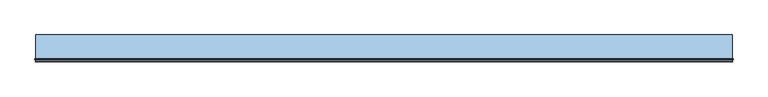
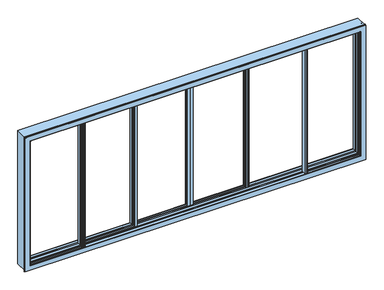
"""IFC4 building model written with IfcOpenShell, lengths in millimetres: window geometry, XL_XHS-9-3E_Metaglas : XL_XHS-9-3E_Metaglas."""

from ifc_helpers import new_model, si_unit, frame, origin, place, context, project, spatial, polyline, outline, extrude, faceted_brep, source, transform, mapped, element, save


def window_bf3bb52b(model_context):
    return source(origin(), model_context, "Body", "SolidModel", [
        faceted_brep([(2970.6999683, 118.3017351, 2470.6999683), (2970.6999683, 180.5026124, 2470.6999683), (2970.6999683, 180.5026124, 29.3000317), (2970.6999683, 118.3017351, 29.3000317), (-2970.6999683, 180.5026124, 2470.6999683), (-2970.6999683, 180.5026124, 29.3000317), (2937.7502981, 180.5026124, 62.2497019), (-2937.7502981, 180.5026124, 62.2497019), (-2937.7502981, 180.5026124, 2437.7502981), (2937.7502981, 180.5026124, 2437.7502981), (-2970.6999683, 118.3017351, 29.3000317), (-2970.6999683, 118.3017351, 2470.6999683), (2949.0575192, 118.3017351, 2449.0575192), (-2949.0575192, 118.3017351, 2449.0575192), (-2949.0575192, 118.3017351, 50.9424808), (2949.0575192, 118.3017351, 50.9424808), (2937.7502981, 176.7025775, 2437.7502981), (2937.7502981, 176.7025775, 62.2497019), (-2937.7502981, 176.7025775, 2437.7502981), (-2937.7502981, 176.7025775, 62.2497019), (2907.2503113, 176.7025775, 92.7496887), (-2907.2503113, 176.7025775, 92.7496887), (-2907.2503113, 176.7025775, 2407.2503113), (2907.2503113, 176.7025775, 2407.2503113), (2909.7253015, 183.5025573, 2409.7253015), (2909.7253015, 183.5025573, 90.2746985), (2981.6999683, 183.5025573, 18.3000317), (-2981.6999683, 183.5025573, 18.3000317), (-2981.6999683, 183.5025573, 2481.6999683), (2981.6999683, 183.5025573, 2481.6999683), (-2909.7253015, 183.5025573, 2409.7253015), (-2909.7253015, 183.5025573, 90.2746985), (2981.6999683, 125.8518398, 2481.6999683), (2981.6999683, 125.8518398, 18.3000317), (2984.99997, 125.8518398, 15.00003), (-2984.99997, 125.8518398, 15.00003), (-2984.99997, 125.8518398, 2484.99997), (2984.99997, 125.8518398, 2484.99997), (-2981.6999683, 125.8518398, 2481.6999683), (-2981.6999683, 125.8518398, 18.3000317), (2984.99997, 118.9947947, 2484.99997), (2984.99997, 118.9947947, 15.00003), (2981.6999683, 120.3017352, 2481.6999683), (2981.6999683, 120.3017352, 18.3000317), (-2984.99997, 118.9947947, 15.00003), (2981.6999683, 97.1025583, 2481.6999683), (2981.6999683, 97.1025583, 18.3000317), (-2981.6999683, 120.3017352, 18.3000317), (2984.99997, 98.3676373, 2484.99997), (2984.99997, 98.3676373, 15.00003), (-2981.6999683, 97.1025583, 18.3000317), (2984.99997, 91.3025583, 2484.99997), (2984.99997, 91.3025583, 15.00003), (-2984.99997, 98.3676373, 15.00003), (-2984.99997, 91.3025583, 2484.99997), (-2984.99997, 91.3025583, 15.00003), (2981.6999683, 91.3025583, 18.3000317), (-2981.6999683, 91.3025583, 18.3000317), (-2981.6999683, 91.3025583, 2481.6999683), (2981.6999683, 91.3025583, 2481.6999683), (2981.6999683, 45.9025583, 2481.6999683), (2981.6999683, 45.9025583, 18.3000317), (2984.99997, 45.9025583, 15.00003), (-2984.99997, 45.9025583, 15.00003), (-2984.99997, 45.9025583, 2484.99997), (2984.99997, 45.9025583, 2484.99997), (-2981.6999683, 45.9025583, 2481.6999683), (-2981.6999683, 45.9025583, 18.3000317), (2984.99997, 38.2525583, 2484.99997), (2984.99997, 38.2525583, 15.00003), (2981.6999683, 40.2025592, 2481.6999683), (2981.6999683, 40.2025592, 18.3000317), (-2984.99997, 38.2525583, 15.00003), (2981.6999683, 17.0041087, 2481.6999683), (2981.6999683, 17.0041087, 18.3000317), (-2981.6999683, 40.2025592, 18.3000317), (2984.99997, 18.2691877, 2484.99997), (2984.99997, 18.2691877, 15.00003), (-2981.6999683, 17.0041087, 18.3000317), (2984.99997, 11.35479, 2484.99997), (2984.99997, 11.35479, 15.00003), (-2984.99997, 18.2691877, 15.00003), (-2984.99997, 11.35479, 2484.99997), (-2984.99997, 11.35479, 15.00003), (2981.6999683, 11.35479, 18.3000317), (-2981.6999683, 11.35479, 18.3000317), (-2981.6999683, 11.35479, 2481.6999683), (2981.6999683, 11.35479, 2481.6999683), (2981.6999683, -15.2974407, 2481.6999683), (2981.6999683, -15.2974407, 18.3000317), (2984.99997, -15.2974407, 15.00003), (-2984.99997, -15.2974407, 15.00003), (-2984.99997, -15.2974407, 2484.99997), (2984.99997, -15.2974407, 2484.99997), (-2981.6999683, -15.2974407, 2481.6999683), (-2981.6999683, -15.2974407, 18.3000317), (2984.99997, -21.2974407, 2484.99997), (2984.99997, -21.2974407, 15.00003), (-2984.99997, -21.2974407, 2484.99997), (-2984.99997, -21.2974407, 15.00003), (2981.6999683, -21.2974407, 18.3000317), (-2981.6999683, -21.2974407, 18.3000317), (-2981.6999683, -21.2974407, 2481.6999683), (2981.6999683, -21.2974407, 2481.6999683), (2981.6999683, -26.9457537, 2481.6999683), (2981.6999683, -26.9457537, 18.3000317), (2991.6999768, -26.9457537, 8.3000232), (-2991.6999768, -26.9457537, 8.3000232), (-2991.6999768, -26.9457537, 2491.6999768), (2991.6999768, -26.9457537, 2491.6999768), (-2981.6999683, -26.9457537, 2481.6999683), (-2981.6999683, -26.9457537, 18.3000317), (2991.6999768, -23.8957567, 2491.6999768), (2991.6999768, -23.8957567, 8.3000232), (3000.1999683, -23.8957567, -0.1999683), (-3000.1999683, -23.8957567, -0.1999683), (-3000.1999683, -23.8957567, 2500.1999683), (3000.1999683, -23.8957567, 2500.1999683), (-2991.6999768, -23.8957567, 2491.6999768), (-2991.6999768, -23.8957567, 8.3000232), (3000.1999683, -28.6974407, 2500.1999683), (3000.1999683, -28.6974407, -0.1999683), (-3000.1999683, -28.6974407, 2500.1999683), (-3000.1999683, -28.6974407, -0.1999683), (2994.7003126, -28.6974407, 5.2996874), (-2994.7003126, -28.6974407, 5.2996874), (-2994.7003126, -28.6974407, 2494.7003126), (2994.7003126, -28.6974407, 2494.7003126), (2949.0575192, 98.9525583, 2449.0575192), (2949.0575192, 97.1025583, 2449.0575192), (2949.0575192, 97.1025583, 50.9424808), (2949.0575192, 98.9525583, 50.9424808), (-2949.0575192, 97.1025583, 2449.0575192), (-2949.0575192, 97.1025583, 50.9424808), (2941.1999683, 97.1025583, 58.8000317), (-2941.1999683, 97.1025583, 58.8000317), (-2941.1999683, 97.1025583, 2441.1999683), (2941.1999683, 97.1025583, 2441.1999683), (-2949.0575192, 98.9525583, 50.9424808), (2970.6999683, 98.9525583, 2470.6999683), (-2970.6999683, 98.9525583, 2470.6999683), (-2970.6999683, 98.9525583, 29.3000317), (2970.6999683, 98.9525583, 29.3000317), (-2949.0575192, 98.9525583, 2449.0575192), (-2984.99997, 118.9947947, 2484.99997), (-2981.6999683, 120.3017352, 2481.6999683), (-2981.6999683, 97.1025583, 2481.6999683), (-2984.99997, 98.3676373, 2484.99997), (-2984.99997, 38.2525583, 2484.99997), (-2981.6999683, 40.2025592, 2481.6999683), (-2981.6999683, 17.0041087, 2481.6999683), (-2984.99997, 18.2691877, 2484.99997), (-2949.0575192, 120.3017352, 50.9424808), (-2949.0575192, 120.3017352, 2449.0575192), (2949.0575192, 120.3017352, 50.9424808), (2949.0575192, 120.3017352, 2449.0575192), (2996.7003126, -46.2957343, 3.2996874), (-2996.7003126, -46.2957343, 3.2996874), (-2996.7003126, -46.2957343, 2496.7003126), (2996.7003126, -46.2957343, 2496.7003126), (2994.7003126, -46.2957343, 2494.7003126), (-2994.7003126, -46.2957343, 2494.7003126), (-2994.7003126, -46.2957343, 5.2996874), (2994.7003126, -46.2957343, 5.2996874), (2996.7003126, -48.7974407, 3.2996874), (-2996.7003126, -48.7974407, 3.2996874), (-2996.7003126, -48.7974407, 2496.7003126), (2996.7003126, -48.7974407, 2496.7003126), (2941.1999683, 120.3017352, 2441.1999683), (-2941.1999683, 120.3017352, 2441.1999683), (-2941.1999683, 120.3017352, 58.8000317), (2941.1999683, 120.3017352, 58.8000317), (2941.1999683, 118.3017351, 2441.1999683), (2941.1999683, 118.3017351, 58.8000317), (-2941.1999683, 118.3017351, 58.8000317), (-2941.1999683, 118.3017351, 2441.1999683), (2928.7503113, 118.3017351, 2428.7503113), (-2928.7503113, 118.3017351, 2428.7503113), (-2928.7503113, 118.3017351, 71.2496887), (2928.7503113, 118.3017351, 71.2496887), (2928.7503113, 120.3017352, 2428.7503113), (2928.7503113, 120.3017352, 71.2496887), (-2928.7503113, 120.3017352, 71.2496887), (-2928.7503113, 120.3017352, 2428.7503113), (2907.2503113, 120.3017352, 2407.2503113), (-2907.2503113, 120.3017352, 2407.2503113), (-2907.2503113, 120.3017352, 92.7496887), (2907.2503113, 120.3017352, 92.7496887), (2907.2503113, 97.1025583, 2407.2503113), (2907.2503113, 97.1025583, 92.7496887), (-2907.2503113, 97.1025583, 92.7496887), (2928.7503113, 97.1025583, 2428.7503113), (-2928.7503113, 97.1025583, 2428.7503113), (-2928.7503113, 97.1025583, 71.2496887), (2928.7503113, 97.1025583, 71.2496887), (-2907.2503113, 97.1025583, 2407.2503113), (2928.7503113, 98.9525583, 2428.7503113), (2928.7503113, 98.9525583, 71.2496887), (-2928.7503113, 98.9525583, 71.2496887), (2941.1999683, 98.9525583, 2441.1999683), (-2941.1999683, 98.9525583, 2441.1999683), (-2941.1999683, 98.9525583, 58.8000317), (2941.1999683, 98.9525583, 58.8000317), (-2928.7503113, 98.9525583, 2428.7503113), (2970.6999683, 81.6025583, 2470.6999683), (2970.6999683, 81.6025583, 29.3000317), (-2970.6999683, 81.6025583, 29.3000317), (-2970.6999683, 81.6025583, 2470.6999683), (2969.1499683, 81.6025583, 2469.1499683), (-2969.1499683, 81.6025583, 2469.1499683), (-2969.1499683, 81.6025583, 30.8500317), (2969.1499683, 81.6025583, 30.8500317), (2969.1499683, 75.1025583, 2469.1499683), (2969.1499683, 75.1025583, 30.8500317), (-2969.1499683, 75.1025583, 30.8500317), (2970.6999683, 75.1025583, 2470.6999683), (-2970.6999683, 75.1025583, 2470.6999683), (-2970.6999683, 75.1025583, 29.3000317), (2970.6999683, 75.1025583, 29.3000317), (-2969.1499683, 75.1025583, 2469.1499683), (2970.6999683, 62.1025583, 2470.6999683), (2970.6999683, 62.1025583, 29.3000317), (-2970.6999683, 62.1025583, 29.3000317), (-2970.6999683, 62.1025583, 2470.6999683), (2969.1499683, 62.1025583, 2469.1499683), (-2969.1499683, 62.1025583, 2469.1499683), (-2969.1499683, 62.1025583, 30.8500317), (2969.1499683, 62.1025583, 30.8500317), (2969.1499683, 55.6025583, 2469.1499683), (2969.1499683, 55.6025583, 30.8500317), (-2969.1499683, 55.6025583, 30.8500317), (2970.6999683, 55.6025583, 2470.6999683), (-2970.6999683, 55.6025583, 2470.6999683), (-2970.6999683, 55.6025583, 29.3000317), (2970.6999683, 55.6025583, 29.3000317), (-2969.1499683, 55.6025583, 2469.1499683), (2970.6999683, 38.2525583, 2470.6999683), (2970.6999683, 38.2525583, 29.3000317), (-2970.6999683, 38.2525583, 29.3000317), (-2970.6999683, 38.2525583, 2470.6999683), (2949.0575192, 38.2525583, 2449.0575192), (-2949.0575192, 38.2525583, 2449.0575192), (-2949.0575192, 38.2525583, 50.9424808), (2949.0575192, 38.2525583, 50.9424808), (2949.0575192, 40.2025592, 2449.0575192), (2949.0575192, 40.2025592, 50.9424808), (-2949.0575192, 40.2025592, 50.9424808), (-2949.0575192, 40.2025592, 2449.0575192), (2941.1999683, 40.2025592, 2441.1999683), (-2941.1999683, 40.2025592, 2441.1999683), (-2941.1999683, 40.2025592, 58.8000317), (2941.1999683, 40.2025592, 58.8000317), (2941.1999683, 38.2025592, 2441.1999683), (2941.1999683, 38.2025592, 58.8000317), (-2941.1999683, 38.2025592, 58.8000317), (-2941.1999683, 38.2025592, 2441.1999683), (2928.7503113, 38.2025592, 2428.7503113), (-2928.7503113, 38.2025592, 2428.7503113), (-2928.7503113, 38.2025592, 71.2496887), (2928.7503113, 38.2025592, 71.2496887), (2928.7503113, 40.2025592, 2428.7503113), (2928.7503113, 40.2025592, 71.2496887), (-2928.7503113, 40.2025592, 71.2496887), (-2928.7503113, 40.2025592, 2428.7503113), (2907.2503113, 40.2025592, 2407.2503113), (-2907.2503113, 40.2025592, 2407.2503113), (-2907.2503113, 40.2025592, 92.7496887), (2907.2503113, 40.2025592, 92.7496887), (2907.2503113, 17.0041087, 2407.2503113), (2907.2503113, 17.0041087, 92.7496887), (-2907.2503113, 17.0041087, 92.7496887), (2928.7503113, 17.0041087, 2428.7503113), (-2928.7503113, 17.0041087, 2428.7503113), (-2928.7503113, 17.0041087, 71.2496887), (2928.7503113, 17.0041087, 71.2496887), (-2907.2503113, 17.0041087, 2407.2503113), (2928.7503113, 18.8542105, 2428.7503113), (2928.7503113, 18.8542105, 71.2496887), (-2928.7503113, 18.8542105, 71.2496887), (2941.1999683, 18.8542105, 2441.1999683), (-2941.1999683, 18.8542105, 2441.1999683), (-2941.1999683, 18.8542105, 58.8000317), (2941.1999683, 18.8542105, 58.8000317), (-2928.7503113, 18.8542105, 2428.7503113), (2941.1999683, 17.0041087, 2441.1999683), (2941.1999683, 17.0041087, 58.8000317), (-2941.1999683, 17.0041087, 58.8000317), (2949.0999628, 17.0041087, 2449.0999628), (-2949.0999628, 17.0041087, 2449.0999628), (-2949.0999628, 17.0041087, 50.9000372), (2949.0999628, 17.0041087, 50.9000372), (-2941.1999683, 17.0041087, 2441.1999683), (2949.0999628, 18.8542105, 2449.0999628), (2949.0999628, 18.8542105, 50.9000372), (-2949.0999628, 18.8542105, 50.9000372), (2970.6999683, 18.8542105, 2470.6999683), (-2970.6999683, 18.8542105, 2470.6999683), (-2970.6999683, 18.8542105, 29.3000317), (2970.6999683, 18.8542105, 29.3000317), (-2949.0999628, 18.8542105, 2449.0999628), (2970.6999683, -39.4974407, 2470.6999683), (2970.6999683, -39.4974407, 29.3000317), (-2970.6999683, -39.4974407, 29.3000317), (-2970.6999683, -39.4974407, 2470.6999683), (2907.2003126, -39.4974407, 2407.2003126), (-2907.2003126, -39.4974407, 2407.2003126), (-2907.2003126, -39.4974407, 92.7996874), (2907.2003126, -39.4974407, 92.7996874), (2907.2003126, -45.7974407, 2407.2003126), (2907.2003126, -45.7974407, 92.7996874), (-2907.2003126, -45.7974407, 92.7996874), (2910.2003126, -48.7974407, 2410.2003126), (2910.2003126, -48.7974407, 89.7996874), (-2910.2003126, -48.7974407, 89.7996874), (-2910.2003126, -48.7974407, 2410.2003126), (-2907.2003126, -45.7974407, 2407.2003126)], [[[0, 1, 2, 3]], [[1, 4, 5, 2], [6, 7, 8, 9]], [[3, 2, 5, 10]], [[3, 10, 11, 0], [12, 13, 14, 15]], [[9, 16, 17, 6]], [[16, 18, 19, 17], [20, 21, 22, 23]], [[6, 17, 19, 7]], [[23, 24, 25, 20]], [[26, 27, 28, 29], [24, 30, 31, 25]], [[20, 25, 31, 21]], [[29, 32, 33, 26]], [[34, 35, 36, 37], [32, 38, 39, 33]], [[26, 33, 39, 27]], [[37, 40, 41, 34]], [[40, 42, 43, 41]], [[34, 41, 44, 35]], [[42, 45, 46, 43]], [[41, 43, 47, 44]], [[45, 48, 49, 46]], [[43, 46, 50, 47]], [[48, 51, 52, 49]], [[46, 49, 53, 50]], [[51, 54, 55, 52], [56, 57, 58, 59]], [[49, 52, 55, 53]], [[59, 60, 61, 56]], [[62, 63, 64, 65], [60, 66, 67, 61]], [[56, 61, 67, 57]], [[65, 68, 69, 62]], [[68, 70, 71, 69]], [[62, 69, 72, 63]], [[70, 73, 74, 71]], [[69, 71, 75, 72]], [[73, 76, 77, 74]], [[71, 74, 78, 75]], [[76, 79, 80, 77]], [[74, 77, 81, 78]], [[79, 82, 83, 80], [84, 85, 86, 87]], [[77, 80, 83, 81]], [[87, 88, 89, 84]], [[90, 91, 92, 93], [88, 94, 95, 89]], [[84, 89, 95, 85]], [[93, 96, 97, 90]], [[96, 98, 99, 97], [100, 101, 102, 103]], [[90, 97, 99, 91]], [[103, 104, 105, 100]], [[106, 107, 108, 109], [104, 110, 111, 105]], [[100, 105, 111, 101]], [[109, 112, 113, 106]], [[114, 115, 116, 117], [112, 118, 119, 113]], [[106, 113, 119, 107]], [[117, 120, 121, 114]], [[120, 122, 123, 121], [124, 125, 126, 127]], [[114, 121, 123, 115]], [[128, 129, 130, 131]], [[129, 132, 133, 130], [134, 135, 136, 137]], [[131, 130, 133, 138]], [[139, 140, 141, 142], [131, 138, 143, 128]], [[10, 5, 4, 11]], [[7, 19, 18, 8]], [[21, 31, 30, 22]], [[27, 39, 38, 28]], [[35, 44, 144, 36]], [[44, 47, 145, 144]], [[47, 50, 146, 145]], [[50, 53, 147, 146]], [[53, 55, 54, 147]], [[57, 67, 66, 58]], [[63, 72, 148, 64]], [[72, 75, 149, 148]], [[75, 78, 150, 149]], [[78, 81, 151, 150]], [[81, 83, 82, 151]], [[85, 95, 94, 86]], [[91, 99, 98, 92]], [[101, 111, 110, 102]], [[107, 119, 118, 108]], [[115, 123, 122, 116]], [[138, 133, 132, 143]], [[152, 14, 13, 153]], [[154, 15, 14, 152]], [[155, 12, 15, 154]], [[156, 157, 158, 159], [160, 161, 162, 163]], [[156, 164, 165, 157]], [[157, 165, 166, 158]], [[159, 167, 164, 156]], [[125, 162, 161, 126]], [[124, 163, 162, 125]], [[127, 160, 163, 124]], [[154, 152, 153, 155], [168, 169, 170, 171]], [[172, 168, 171, 173]], [[173, 171, 170, 174]], [[173, 174, 175, 172], [176, 177, 178, 179]], [[180, 176, 179, 181]], [[181, 179, 178, 182]], [[181, 182, 183, 180], [184, 185, 186, 187]], [[188, 184, 187, 189]], [[189, 187, 186, 190]], [[191, 192, 193, 194], [189, 190, 195, 188]], [[196, 191, 194, 197]], [[197, 194, 193, 198]], [[199, 200, 201, 202], [197, 198, 203, 196]], [[137, 199, 202, 134]], [[134, 202, 201, 135]], [[204, 139, 142, 205]], [[205, 142, 141, 206]], [[205, 206, 207, 204], [208, 209, 210, 211]], [[212, 208, 211, 213]], [[213, 211, 210, 214]], [[215, 216, 217, 218], [213, 214, 219, 212]], [[220, 215, 218, 221]], [[221, 218, 217, 222]], [[221, 222, 223, 220], [224, 225, 226, 227]], [[228, 224, 227, 229]], [[229, 227, 226, 230]], [[231, 232, 233, 234], [229, 230, 235, 228]], [[236, 231, 234, 237]], [[237, 234, 233, 238]], [[237, 238, 239, 236], [240, 241, 242, 243]], [[244, 240, 243, 245]], [[245, 243, 242, 246]], [[245, 246, 247, 244], [248, 249, 250, 251]], [[252, 248, 251, 253]], [[253, 251, 250, 254]], [[253, 254, 255, 252], [256, 257, 258, 259]], [[260, 256, 259, 261]], [[261, 259, 258, 262]], [[261, 262, 263, 260], [264, 265, 266, 267]], [[268, 264, 267, 269]], [[269, 267, 266, 270]], [[271, 272, 273, 274], [269, 270, 275, 268]], [[276, 271, 274, 277]], [[277, 274, 273, 278]], [[279, 280, 281, 282], [277, 278, 283, 276]], [[284, 279, 282, 285]], [[285, 282, 281, 286]], [[287, 288, 289, 290], [285, 286, 291, 284]], [[292, 287, 290, 293]], [[293, 290, 289, 294]], [[295, 296, 297, 298], [293, 294, 299, 292]], [[300, 295, 298, 301]], [[301, 298, 297, 302]], [[301, 302, 303, 300], [304, 305, 306, 307]], [[308, 304, 307, 309]], [[309, 307, 306, 310]], [[311, 308, 309, 312]], [[312, 309, 310, 313]], [[167, 166, 165, 164], [312, 313, 314, 311]], [[174, 170, 169, 175]], [[182, 178, 177, 183]], [[190, 186, 185, 195]], [[198, 193, 192, 203]], [[135, 201, 200, 136]], [[206, 141, 140, 207]], [[214, 210, 209, 219]], [[222, 217, 216, 223]], [[230, 226, 225, 235]], [[238, 233, 232, 239]], [[246, 242, 241, 247]], [[254, 250, 249, 255]], [[262, 258, 257, 263]], [[270, 266, 265, 275]], [[278, 273, 272, 283]], [[286, 281, 280, 291]], [[294, 289, 288, 299]], [[302, 297, 296, 303]], [[310, 306, 305, 315]], [[313, 310, 315, 314]], [[11, 4, 1, 0]], [[8, 18, 16, 9]], [[22, 30, 24, 23]], [[28, 38, 32, 29]], [[36, 144, 40, 37]], [[144, 145, 42, 40]], [[145, 146, 45, 42]], [[146, 147, 48, 45]], [[147, 54, 51, 48]], [[58, 66, 60, 59]], [[64, 148, 68, 65]], [[148, 149, 70, 68]], [[149, 150, 73, 70]], [[150, 151, 76, 73]], [[151, 82, 79, 76]], [[86, 94, 88, 87]], [[92, 98, 96, 93]], [[102, 110, 104, 103]], [[108, 118, 112, 109]], [[116, 122, 120, 117]], [[143, 132, 129, 128]], [[126, 161, 160, 127]], [[153, 13, 12, 155]], [[175, 169, 168, 172]], [[183, 177, 176, 180]], [[195, 185, 184, 188]], [[203, 192, 191, 196]], [[136, 200, 199, 137]], [[207, 140, 139, 204]], [[219, 209, 208, 212]], [[223, 216, 215, 220]], [[235, 225, 224, 228]], [[239, 232, 231, 236]], [[247, 241, 240, 244]], [[255, 249, 248, 252]], [[263, 257, 256, 260]], [[275, 265, 264, 268]], [[283, 272, 271, 276]], [[291, 280, 279, 284]], [[299, 288, 287, 292]], [[303, 296, 295, 300]], [[315, 305, 304, 308]], [[314, 315, 308, 311]], [[158, 166, 167, 159]]]),
        faceted_brep([(-1941.05, 14.7013279, 2449.0), (-1941.05, -37.2986721, 2449.0), (-1941.05, -37.2986721, 52.6), (-1941.05, 14.7013279, 52.6), (-2949.0, -37.2986721, 2449.0), (-2949.0, -37.2986721, 52.6), (-1983.05, -37.2986721, 94.6), (-2907.0, -37.2986721, 94.6), (-2907.0, -37.2986721, 2407.0), (-1983.05, -37.2986721, 2407.0), (-2949.0, 14.7013279, 52.6), (-2949.0, 14.7013279, 2449.0), (-1983.05, 14.7013279, 2407.0), (-2907.0, 14.7013279, 2407.0), (-2907.0, 14.7013279, 94.6), (-1983.05, 14.7013279, 94.6), (-1983.05, 4.2013279, 2407.0), (-1983.05, 4.2013279, 94.6), (-2907.0, 4.2013279, 94.6), (-1969.35, 4.2013279, 2420.7), (-2920.7, 4.2013279, 2420.7), (-2920.7, 4.2013279, 80.9), (-1969.35, 4.2013279, 80.9), (-2907.0, 4.2013279, 2407.0), (-1969.35, -31.2986721, 2420.7), (-1969.35, -31.2986721, 80.9), (-2920.7, -31.2986721, 80.9), (-2920.7, -31.2986721, 2420.7), (-1983.05, -31.2986721, 2407.0), (-2907.0, -31.2986721, 2407.0), (-2907.0, -31.2986721, 94.6), (-1983.05, -31.2986721, 94.6)], [[[0, 1, 2, 3]], [[1, 4, 5, 2], [6, 7, 8, 9]], [[3, 2, 5, 10]], [[3, 10, 11, 0], [12, 13, 14, 15]], [[16, 12, 15, 17]], [[17, 15, 14, 18]], [[19, 20, 21, 22], [17, 18, 23, 16]], [[24, 19, 22, 25]], [[25, 22, 21, 26]], [[25, 26, 27, 24], [28, 29, 30, 31]], [[9, 28, 31, 6]], [[6, 31, 30, 7]], [[10, 5, 4, 11]], [[18, 14, 13, 23]], [[26, 21, 20, 27]], [[7, 30, 29, 8]], [[11, 4, 1, 0]], [[23, 13, 12, 16]], [[27, 20, 19, 24]], [[8, 29, 28, 9]]]),
        faceted_brep([(-38.85, 167.9013279, 2406.3), (-38.85, 173.9013279, 2406.3), (-38.85, 173.9013279, 95.3), (-38.85, 167.9013279, 95.3), (3.15, 173.9013279, 53.3), (-1014.15, 173.9013279, 53.3), (-1014.15, 173.9013279, 2448.3), (3.15, 173.9013279, 2448.3), (-972.15, 173.9013279, 2406.3), (-972.15, 173.9013279, 95.3), (-972.15, 167.9013279, 95.3), (-25.15, 167.9013279, 2420.0), (-985.85, 167.9013279, 2420.0), (-985.85, 167.9013279, 81.6), (-25.15, 167.9013279, 81.6), (-972.15, 167.9013279, 2406.3), (-25.15, 132.4013279, 2420.0), (-25.15, 132.4013279, 81.6), (-985.85, 132.4013279, 81.6), (-985.85, 132.4013279, 2420.0), (-38.85, 132.4013279, 2406.3), (-972.15, 132.4013279, 2406.3), (-972.15, 132.4013279, 95.3), (-38.85, 132.4013279, 95.3), (-38.85, 121.9013279, 2406.3), (-38.85, 121.9013279, 95.3), (-972.15, 121.9013279, 95.3), (3.15, 121.9013279, 2448.3), (-1014.15, 121.9013279, 2448.3), (-1014.15, 121.9013279, 53.3), (3.15, 121.9013279, 53.3), (-972.15, 121.9013279, 2406.3)], [[[0, 1, 2, 3]], [[4, 5, 6, 7], [1, 8, 9, 2]], [[3, 2, 9, 10]], [[11, 12, 13, 14], [3, 10, 15, 0]], [[16, 11, 14, 17]], [[17, 14, 13, 18]], [[17, 18, 19, 16], [20, 21, 22, 23]], [[24, 20, 23, 25]], [[25, 23, 22, 26]], [[27, 28, 29, 30], [25, 26, 31, 24]], [[7, 27, 30, 4]], [[4, 30, 29, 5]], [[10, 9, 8, 15]], [[18, 13, 12, 19]], [[26, 22, 21, 31]], [[5, 29, 28, 6]], [[15, 8, 1, 0]], [[19, 12, 11, 16]], [[31, 21, 20, 24]], [[6, 28, 27, 7]]]),
        extrude(outline(polyline([(-1937.3, -40.3986832), (-1957.8, -40.3986832), (-1957.8, -38.0986832), (-1939.8, -38.0986832), (-1939.8, 9.4006738), (-1950.7999933, 9.4006738), (-1950.7999933, 21.4013279), (-1955.5994287, 21.4013279), (-1959.1501259, 23.4513239), (-1957.1001331, 25.5013168), (-1939.8, 25.5013168), (-1939.8, 30.8013168), (-1957.100133, 30.8013168), (-1959.1, 32.803071), (-1969.6, 36.9013168), (-1977.7955136, 36.9013168), (-1982.1256406, 39.4013168), (-1965.100133, 39.4013168), (-1957.100133, 35.9013168), (-1950.05, 35.9013168), (-1950.05, 39.4013168), (-1939.8, 39.4013168), (-1939.8, 44.6013279), (-1937.3, 44.6013279), (-1937.3, -40.3986832)])), frame((0.0, 0.0, 66.6), z_axis=(0.0, 0.0, 1.0), x_axis=(1.0, 0.0, 0.0)), (0.0, 0.0, 1.0), 2368.4),
        extrude(outline(polyline([(-1018.6, 177.0013391), (-998.1, 177.0013391), (-998.1, 174.7013391), (-1016.1, 174.7013391), (-1016.1, 127.2019821), (-1005.1000067, 127.2019821), (-1005.1000067, 115.2013279), (-1000.3005713, 115.2013279), (-996.7498741, 113.1513319), (-998.7998669, 111.1013391), (-1016.1, 111.1013391), (-1016.1, 105.8013391), (-998.799867, 105.8013391), (-996.8, 103.7995849), (-986.3, 99.7013391), (-978.1044864, 99.7013391), (-973.7743594, 97.2013391), (-990.799867, 97.2013391), (-998.799867, 100.7013391), (-1005.85, 100.7013391), (-1005.85, 97.2013391), (-1016.1, 97.2013391), (-1016.1, 92.0013279), (-1018.6, 92.0013279), (-1018.6, 177.0013391)])), frame((0.0, 0.0, 66.6), z_axis=(0.0, 0.0, 1.0), x_axis=(1.0, 0.0, 0.0)), (0.0, 0.0, 1.0), 2368.4),
        faceted_brep([(-2907.5, 10.6505396, 29.4010051), (-2907.5, 10.6505396, 32.2551277), (-2907.5, 14.4013889, 40.065471), (-2907.5, 14.4013889, 91.0010712), (-2907.5, -36.9986354, 91.0010712), (-2907.5, -36.9986354, 40.1112132), (-2907.5, -33.2475124, 32.2551277), (-2907.5, -33.2475124, 29.4001027), (-2907.5, -35.0475124, 29.4001027), (-2907.5, -35.0475124, 31.8453147), (-2907.5, -41.2688581, 44.7999397), (-2907.5, -38.7976964, 44.7999397), (-2907.5, -38.7976964, 92.7999899), (-2907.5, 16.2013523, 92.7999899), (-2907.5, 16.2013523, 44.7999899), (-2907.5, 18.6718854, 44.7999899), (-2907.5, 12.4505396, 31.8453147), (-2907.5, 12.4505396, 29.4010051), (-2907.5, 10.6505396, 2470.5989949), (-2907.5, 10.6505396, 2467.7448723), (2967.7448723, 10.6505396, 2467.7448723), (2967.7448723, 10.6505396, 32.2551277), (2970.5989949, 10.6505396, 29.4010051), (2970.5989949, 10.6505396, 2470.5989949), (2959.934529, 14.4013889, 40.065471), (-2907.5, 14.4013889, 2459.934529), (-2907.5, 14.4013889, 2408.9989288), (2908.9989288, 14.4013889, 2408.9989288), (2908.9989288, 14.4013889, 91.0010712), (2959.934529, 14.4013889, 2459.934529), (2908.9989288, -36.9986354, 91.0010712), (-2907.5, -36.9986354, 2408.9989288), (-2907.5, -36.9986354, 2459.8887868), (2959.8887868, -36.9986354, 2459.8887868), (2959.8887868, -36.9986354, 40.1112132), (2908.9989288, -36.9986354, 2408.9989288), (2967.7448723, -33.2475124, 32.2551277), (-2907.5, -33.2475124, 2467.7448723), (-2907.5, -33.2475124, 2470.5998973), (2970.5998973, -33.2475124, 2470.5998973), (2970.5998973, -33.2475124, 29.4001027), (2967.7448723, -33.2475124, 2467.7448723), (2970.5998973, -35.0475124, 29.4001027), (-2907.5, -35.0475124, 2470.5998973), (-2907.5, -35.0475124, 2468.1546853), (2968.1546853, -35.0475124, 2468.1546853), (2968.1546853, -35.0475124, 31.8453147), (2970.5998973, -35.0475124, 2470.5998973), (2955.2000603, -41.2688581, 44.7999397), (2955.2000603, -38.7976964, 44.7999397), (-2907.5, -38.7976964, 2455.2000603), (-2907.5, -38.7976964, 2407.2000101), (2907.2000101, -38.7976964, 2407.2000101), (2907.2000101, -38.7976964, 92.7999899), (2955.2000603, -38.7976964, 2455.2000603), (2907.2000101, 16.2013523, 92.7999899), (-2907.5, 16.2013523, 2407.2000101), (-2907.5, 16.2013523, 2455.2000101), (2955.2000101, 16.2013523, 2455.2000101), (2955.2000101, 16.2013523, 44.7999899), (2907.2000101, 16.2013523, 2407.2000101), (2955.2000101, 18.6718854, 44.7999899), (2968.1546853, 12.4505396, 31.8453147), (-2907.5, 12.4505396, 2468.1546853), (-2907.5, 12.4505396, 2470.5989949), (2970.5989949, 12.4505396, 2470.5989949), (2970.5989949, 12.4505396, 29.4010051), (2968.1546853, 12.4505396, 2468.1546853), (2955.2000603, -41.2688581, 2455.2000603), (2955.2000101, 18.6718854, 2455.2000101), (-2907.5, 18.6718854, 2455.2000101), (-2907.5, -41.2688581, 2455.2000603)], [[[0, 1, 2, 3, 4, 5, 6, 7, 8, 9, 10, 11, 12, 13, 14, 15, 16, 17]], [[18, 19, 20, 21, 1, 0, 22, 23]], [[21, 24, 2, 1]], [[25, 26, 27, 28, 3, 2, 24, 29]], [[28, 30, 4, 3]], [[31, 32, 33, 34, 5, 4, 30, 35]], [[34, 36, 6, 5]], [[37, 38, 39, 40, 7, 6, 36, 41]], [[40, 42, 8, 7]], [[43, 44, 45, 46, 9, 8, 42, 47]], [[46, 48, 10, 9]], [[48, 49, 11, 10]], [[50, 51, 52, 53, 12, 11, 49, 54]], [[53, 55, 13, 12]], [[56, 57, 58, 59, 14, 13, 55, 60]], [[59, 61, 15, 14]], [[61, 62, 16, 15]], [[63, 64, 65, 66, 17, 16, 62, 67]], [[66, 22, 0, 17]], [[33, 41, 36, 34]], [[27, 35, 30, 28]], [[20, 29, 24, 21]], [[45, 68, 48, 46]], [[39, 47, 42, 40]], [[65, 23, 22, 66]], [[69, 67, 62, 61]], [[58, 69, 61, 59]], [[52, 60, 55, 53]], [[68, 54, 49, 48]], [[18, 64, 63, 70, 57, 56, 51, 50, 71, 44, 43, 38, 37, 32, 31, 26, 25, 19]], [[64, 18, 23, 65]], [[26, 31, 35, 27]], [[32, 37, 41, 33]], [[19, 25, 29, 20]], [[70, 63, 67, 69]], [[57, 70, 69, 58]], [[51, 56, 60, 52]], [[71, 50, 54, 68]], [[44, 71, 68, 45]], [[38, 43, 47, 39]]]),
        extrude(outline(polyline([(-2970.6213169, 169.8505396), (-2970.6213169, 171.6505396), (-2968.1770072, 171.6505396), (-2955.222332, 177.8718854), (-2955.222332, 175.4013523), (-2907.222332, 175.4013523), (-2907.222332, 120.4023036), (-2955.2223823, 120.4023036), (-2955.2223823, 117.9311419), (-2968.1770072, 124.1524876), (-2970.6222192, 124.1524876), (-2970.6222192, 125.9524876), (-2967.7671942, 125.9524876), (-2959.9111087, 122.2013646), (-2909.0212507, 122.2013646), (-2909.0212507, 173.6013889), (-2959.956851, 173.6013889), (-2967.7671942, 169.8505396), (-2970.6213169, 169.8505396)])), frame((0.0, 0.0, 92.5), z_axis=(0.0, 0.0, 1.0), x_axis=(1.0, 0.0, 0.0)), (0.0, 0.0, 1.0), 2315.0),
        faceted_brep([(2984.9999912, -23.8568327, 15.0), (2984.9999912, 183.5013279, 15.0), (2991.0, 183.5013279, 15.0), (2991.0, -21.6986721, 15.0), (3000.0, -21.6986721, 15.0), (3000.0, -23.8568327, 15.0), (2984.9999912, -23.8568327, 2484.9999912), (2984.9999912, 183.5013279, 2484.9999912), (-2984.9999912, 183.5013279, 2484.9999912), (-2984.9999912, 183.5013279, 15.0), (-2991.0, 183.5013279, 15.0), (-2991.0, 183.5013279, 2491.0), (2991.0, 183.5013279, 2491.0), (2991.0, -21.6986721, 2491.0), (-2991.0, -21.6986721, 2491.0), (-2991.0, -21.6986721, 15.0), (-3000.0, -21.6986721, 15.0), (-3000.0, -21.6986721, 2500.0), (3000.0, -21.6986721, 2500.0), (3000.0, -23.8568327, 2500.0), (-3000.0, -23.8568327, 2500.0), (-3000.0, -23.8568327, 15.0), (-2984.9999912, -23.8568327, 15.0), (-2984.9999912, -23.8568327, 2484.9999912)], [[[0, 1, 2, 3, 4, 5]], [[1, 0, 6, 7]], [[2, 1, 7, 8, 9, 10, 11, 12]], [[3, 2, 12, 13]], [[4, 3, 13, 14, 15, 16, 17, 18]], [[5, 4, 18, 19]], [[0, 5, 19, 20, 21, 22, 23, 6]], [[8, 23, 22, 9]], [[22, 21, 16, 15, 10, 9]], [[14, 11, 10, 15]], [[20, 17, 16, 21]], [[7, 6, 23, 8]], [[13, 12, 11, 14]], [[19, 18, 17, 20]]]),
        faceted_brep([(-0.95, 121.9013279, 53.3), (-0.95, 173.9013279, 53.3), (1016.35, 173.9013279, 53.3), (1016.35, 121.9013279, 53.3), (1016.35, 173.9013279, 2448.3), (1016.35, 121.9013279, 2448.3), (-0.95, 173.9013279, 2448.3), (974.35, 173.9013279, 2406.3), (41.05, 173.9013279, 2406.3), (41.05, 173.9013279, 95.3), (974.35, 173.9013279, 95.3), (-0.95, 121.9013279, 2448.3), (974.35, 121.9013279, 95.3), (41.05, 121.9013279, 95.3), (41.05, 121.9013279, 2406.3), (974.35, 121.9013279, 2406.3), (41.05, 132.4013279, 95.3), (974.35, 132.4013279, 95.3), (974.35, 132.4013279, 2406.3), (988.05, 132.4013279, 81.6), (27.35, 132.4013279, 81.6), (27.35, 132.4013279, 2420.0), (988.05, 132.4013279, 2420.0), (41.05, 132.4013279, 2406.3), (27.35, 167.9013279, 81.6), (988.05, 167.9013279, 81.6), (988.05, 167.9013279, 2420.0), (27.35, 167.9013279, 2420.0), (974.35, 167.9013279, 95.3), (41.05, 167.9013279, 95.3), (41.05, 167.9013279, 2406.3), (974.35, 167.9013279, 2406.3)], [[[0, 1, 2, 3]], [[3, 2, 4, 5]], [[2, 1, 6, 4], [7, 8, 9, 10]], [[5, 11, 0, 3], [12, 13, 14, 15]], [[16, 13, 12, 17]], [[17, 12, 15, 18]], [[19, 20, 21, 22], [18, 23, 16, 17]], [[24, 20, 19, 25]], [[25, 19, 22, 26]], [[26, 27, 24, 25], [28, 29, 30, 31]], [[9, 29, 28, 10]], [[10, 28, 31, 7]], [[11, 6, 1, 0]], [[23, 14, 13, 16]], [[27, 21, 20, 24]], [[8, 30, 29, 9]], [[5, 4, 6, 11]], [[18, 15, 14, 23]], [[26, 22, 21, 27]], [[7, 31, 30, 8]]]),
        extrude(outline(polyline([(-47.0, 121.802235), (-4.7, 121.802235), (-4.7, 136.802235), (-0.7, 136.802235), (-0.7, 119.802235), (49.0, 119.802235), (49.0, 114.802235), (6.0, 114.802235), (6.0, 116.802235), (-4.0, 116.802235), (-4.0, 114.802235), (-47.0, 114.802235), (-47.0, 121.802235)])), frame((0.0, 0.0, 66.6), z_axis=(0.0, 0.0, 1.0), x_axis=(1.0, 0.0, 0.0)), (0.0, 0.0, 1.0), 2368.4),
        extrude(outline(polyline([(-47.0, 173.8734048), (-47.0, 180.8734048), (-4.0, 180.8734048), (-4.0, 178.8734048), (6.0, 178.8734048), (6.0, 180.8734048), (49.0, 180.8734048), (49.0, 175.8734048), (-0.7, 175.8734048), (-0.7, 158.8734048), (-4.7, 158.8734048), (-4.7, 173.8734048), (-47.0, 173.8734048)])), frame((0.0, 0.0, 66.6), z_axis=(0.0, 0.0, 1.0), x_axis=(1.0, 0.0, 0.0)), (0.0, 0.0, 1.0), 2368.4),
        faceted_brep([(1983.05, -31.2986721, 94.6), (1983.05, -37.2986721, 94.6), (2907.0, -37.2986721, 94.6), (2907.0, -31.2986721, 94.6), (2907.0, -37.2986721, 2407.0), (2907.0, -31.2986721, 2407.0), (2949.0, -37.2986721, 2449.0), (1941.05, -37.2986721, 2449.0), (1941.05, -37.2986721, 52.6), (2949.0, -37.2986721, 52.6), (1983.05, -37.2986721, 2407.0), (2920.7, -31.2986721, 80.9), (1969.35, -31.2986721, 80.9), (1969.35, -31.2986721, 2420.7), (2920.7, -31.2986721, 2420.7), (1983.05, -31.2986721, 2407.0), (1969.35, 4.2013279, 80.9), (2920.7, 4.2013279, 80.9), (2920.7, 4.2013279, 2420.7), (1969.35, 4.2013279, 2420.7), (2907.0, 4.2013279, 94.6), (1983.05, 4.2013279, 94.6), (1983.05, 4.2013279, 2407.0), (2907.0, 4.2013279, 2407.0), (1983.05, 14.7013279, 94.6), (2907.0, 14.7013279, 94.6), (2907.0, 14.7013279, 2407.0), (2949.0, 14.7013279, 52.6), (1941.05, 14.7013279, 52.6), (1941.05, 14.7013279, 2449.0), (2949.0, 14.7013279, 2449.0), (1983.05, 14.7013279, 2407.0)], [[[0, 1, 2, 3]], [[3, 2, 4, 5]], [[6, 7, 8, 9], [2, 1, 10, 4]], [[11, 12, 13, 14], [5, 15, 0, 3]], [[16, 12, 11, 17]], [[17, 11, 14, 18]], [[18, 19, 16, 17], [20, 21, 22, 23]], [[24, 21, 20, 25]], [[25, 20, 23, 26]], [[27, 28, 29, 30], [26, 31, 24, 25]], [[8, 28, 27, 9]], [[9, 27, 30, 6]], [[15, 10, 1, 0]], [[19, 13, 12, 16]], [[31, 22, 21, 24]], [[7, 29, 28, 8]], [[5, 4, 10, 15]], [[18, 14, 13, 19]], [[26, 23, 22, 31]], [[6, 30, 29, 7]]]),
        extrude(outline(polyline([(1020.8, 177.0013391), (1020.8, 92.0013279), (1018.3, 92.0013279), (1018.3, 97.2013391), (1008.05, 97.2013391), (1008.05, 100.7013391), (1000.999867, 100.7013391), (992.999867, 97.2013391), (975.9743594, 97.2013391), (980.3044864, 99.7013391), (988.5, 99.7013391), (999.0, 103.7995849), (1000.999867, 105.8013391), (1018.3, 105.8013391), (1018.3, 111.1013391), (1000.9998669, 111.1013391), (998.9498741, 113.1513319), (1002.5005713, 115.2013279), (1007.3000067, 115.2013279), (1007.3000067, 127.2019821), (1018.3, 127.2019821), (1018.3, 174.7013391), (1000.3, 174.7013391), (1000.3, 177.0013391), (1020.8, 177.0013391)])), frame((0.0, 0.0, 66.6), z_axis=(0.0, 0.0, 1.0), x_axis=(1.0, 0.0, 0.0)), (0.0, 0.0, 1.0), 2368.4),
        extrude(outline(polyline([(1937.3, -40.3986832), (1937.3, 44.6013279), (1939.8, 44.6013279), (1939.8, 39.4013168), (1950.05, 39.4013168), (1950.05, 35.9013168), (1957.100133, 35.9013168), (1965.100133, 39.4013168), (1982.1256406, 39.4013168), (1977.7955136, 36.9013168), (1969.6, 36.9013168), (1959.1, 32.803071), (1957.100133, 30.8013168), (1939.8, 30.8013168), (1939.8, 25.5013168), (1957.1001331, 25.5013168), (1959.1501259, 23.4513239), (1955.5994287, 21.4013279), (1950.7999933, 21.4013279), (1950.7999933, 9.4006738), (1939.8, 9.4006738), (1939.8, -38.0986832), (1957.8, -38.0986832), (1957.8, -40.3986832), (1937.3, -40.3986832)])), frame((0.0, 0.0, 66.6), z_axis=(0.0, 0.0, 1.0), x_axis=(1.0, 0.0, 0.0)), (0.0, 0.0, 1.0), 2368.4),
        extrude(outline(polyline([(-2970.8989849, 90.2505396), (-2970.8989849, 92.0505396), (-2968.4546752, 92.0505396), (-2955.5, 98.2718854), (-2955.5, 95.8013523), (-2907.5, 95.8013523), (-2907.5, 40.8023036), (-2955.5000502, 40.8023036), (-2955.5000502, 38.3311419), (-2968.4546752, 44.5524876), (-2970.8998872, 44.5524876), (-2970.8998872, 46.3524876), (-2968.0448622, 46.3524876), (-2960.1887767, 42.6013646), (-2909.2989187, 42.6013646), (-2909.2989187, 94.0013889), (-2960.2345189, 94.0013889), (-2968.0448622, 90.2505396), (-2970.8989849, 90.2505396)])), frame((0.0, 0.0, 92.5), z_axis=(0.0, 0.0, 1.0), x_axis=(1.0, 0.0, 0.0)), (0.0, 0.0, 1.0), 2315.0),
        faceted_brep([(-2907.5, 90.2505396, 29.4010051), (-2907.5, 90.2505396, 32.2551277), (-2907.5, 94.0013889, 40.065471), (-2907.5, 94.0013889, 91.0010712), (-2907.5, 42.6013646, 91.0010712), (-2907.5, 42.6013646, 40.1112132), (-2907.5, 46.3524876, 32.2551277), (-2907.5, 46.3524876, 29.4001027), (-2907.5, 44.5524876, 29.4001027), (-2907.5, 44.5524876, 31.8453147), (-2907.5, 38.3311419, 44.7999397), (-2907.5, 40.8023036, 44.7999397), (-2907.5, 40.8023036, 92.7999899), (-2907.5, 95.8013523, 92.7999899), (-2907.5, 95.8013523, 44.7999899), (-2907.5, 98.2718854, 44.7999899), (-2907.5, 92.0505396, 31.8453147), (-2907.5, 92.0505396, 29.4010051), (-2907.5, 90.2505396, 2470.5989949), (-2907.5, 90.2505396, 2467.7448723), (2967.7448723, 90.2505396, 2467.7448723), (2967.7448723, 90.2505396, 32.2551277), (2970.5989949, 90.2505396, 29.4010051), (2970.5989949, 90.2505396, 2470.5989949), (2959.934529, 94.0013889, 40.065471), (-2907.5, 94.0013889, 2459.934529), (-2907.5, 94.0013889, 2408.9989288), (2908.9989288, 94.0013889, 2408.9989288), (2908.9989288, 94.0013889, 91.0010712), (2959.934529, 94.0013889, 2459.934529), (2908.9989288, 42.6013646, 91.0010712), (-2907.5, 42.6013646, 2408.9989288), (-2907.5, 42.6013646, 2459.8887868), (2959.8887868, 42.6013646, 2459.8887868), (2959.8887868, 42.6013646, 40.1112132), (2908.9989288, 42.6013646, 2408.9989288), (2967.7448723, 46.3524876, 32.2551277), (-2907.5, 46.3524876, 2467.7448723), (-2907.5, 46.3524876, 2470.5998973), (2970.5998973, 46.3524876, 2470.5998973), (2970.5998973, 46.3524876, 29.4001027), (2967.7448723, 46.3524876, 2467.7448723), (2970.5998973, 44.5524876, 29.4001027), (-2907.5, 44.5524876, 2470.5998973), (-2907.5, 44.5524876, 2468.1546853), (2968.1546853, 44.5524876, 2468.1546853), (2968.1546853, 44.5524876, 31.8453147), (2970.5998973, 44.5524876, 2470.5998973), (2955.2000603, 38.3311419, 44.7999397), (2955.2000603, 40.8023036, 44.7999397), (-2907.5, 40.8023036, 2455.2000603), (-2907.5, 40.8023036, 2407.2000101), (2907.2000101, 40.8023036, 2407.2000101), (2907.2000101, 40.8023036, 92.7999899), (2955.2000603, 40.8023036, 2455.2000603), (2907.2000101, 95.8013523, 92.7999899), (-2907.5, 95.8013523, 2407.2000101), (-2907.5, 95.8013523, 2455.2000101), (2955.2000101, 95.8013523, 2455.2000101), (2955.2000101, 95.8013523, 44.7999899), (2907.2000101, 95.8013523, 2407.2000101), (2955.2000101, 98.2718854, 44.7999899), (2968.1546853, 92.0505396, 31.8453147), (-2907.5, 92.0505396, 2468.1546853), (-2907.5, 92.0505396, 2470.5989949), (2970.5989949, 92.0505396, 2470.5989949), (2970.5989949, 92.0505396, 29.4010051), (2968.1546853, 92.0505396, 2468.1546853), (2955.2000603, 38.3311419, 2455.2000603), (2955.2000101, 98.2718854, 2455.2000101), (-2907.5, 98.2718854, 2455.2000101), (-2907.5, 38.3311419, 2455.2000603)], [[[0, 1, 2, 3, 4, 5, 6, 7, 8, 9, 10, 11, 12, 13, 14, 15, 16, 17]], [[18, 19, 20, 21, 1, 0, 22, 23]], [[21, 24, 2, 1]], [[25, 26, 27, 28, 3, 2, 24, 29]], [[28, 30, 4, 3]], [[31, 32, 33, 34, 5, 4, 30, 35]], [[34, 36, 6, 5]], [[37, 38, 39, 40, 7, 6, 36, 41]], [[40, 42, 8, 7]], [[43, 44, 45, 46, 9, 8, 42, 47]], [[46, 48, 10, 9]], [[48, 49, 11, 10]], [[50, 51, 52, 53, 12, 11, 49, 54]], [[53, 55, 13, 12]], [[56, 57, 58, 59, 14, 13, 55, 60]], [[59, 61, 15, 14]], [[61, 62, 16, 15]], [[63, 64, 65, 66, 17, 16, 62, 67]], [[66, 22, 0, 17]], [[33, 41, 36, 34]], [[27, 35, 30, 28]], [[20, 29, 24, 21]], [[45, 68, 48, 46]], [[39, 47, 42, 40]], [[65, 23, 22, 66]], [[69, 67, 62, 61]], [[58, 69, 61, 59]], [[52, 60, 55, 53]], [[68, 54, 49, 48]], [[18, 64, 63, 70, 57, 56, 51, 50, 71, 44, 43, 38, 37, 32, 31, 26, 25, 19]], [[64, 18, 23, 65]], [[26, 31, 35, 27]], [[32, 37, 41, 33]], [[19, 25, 29, 20]], [[70, 63, 67, 69]], [[57, 70, 69, 58]], [[51, 56, 60, 52]], [[71, 50, 54, 68]], [[44, 71, 68, 45]], [[38, 43, 47, 39]]]),
        faceted_brep([(-2907.5, 169.8492117, 29.4010051), (-2907.5, 169.8492117, 32.2551277), (-2907.5, 173.600061, 40.065471), (-2907.5, 173.600061, 91.0010712), (-2907.5, 122.2000367, 91.0010712), (-2907.5, 122.2000367, 40.1112132), (-2907.5, 125.9511597, 32.2551277), (-2907.5, 125.9511597, 29.4001027), (-2907.5, 124.1511597, 29.4001027), (-2907.5, 124.1511597, 31.8453147), (-2907.5, 117.9298139, 44.7999397), (-2907.5, 120.4009756, 44.7999397), (-2907.5, 120.4009756, 92.7999899), (-2907.5, 175.4000244, 92.7999899), (-2907.5, 175.4000244, 44.7999899), (-2907.5, 177.8705574, 44.7999899), (-2907.5, 171.6492117, 31.8453147), (-2907.5, 171.6492117, 29.4010051), (-2907.5, 169.8492117, 2470.5989949), (-2907.5, 169.8492117, 2467.7448723), (2967.7448723, 169.8492117, 2467.7448723), (2967.7448723, 169.8492117, 32.2551277), (2970.5989949, 169.8492117, 29.4010051), (2970.5989949, 169.8492117, 2470.5989949), (2959.934529, 173.600061, 40.065471), (-2907.5, 173.600061, 2459.934529), (-2907.5, 173.600061, 2408.9989288), (2908.9989288, 173.600061, 2408.9989288), (2908.9989288, 173.600061, 91.0010712), (2959.934529, 173.600061, 2459.934529), (2908.9989288, 122.2000367, 91.0010712), (-2907.5, 122.2000367, 2408.9989288), (-2907.5, 122.2000367, 2459.8887868), (2959.8887868, 122.2000367, 2459.8887868), (2959.8887868, 122.2000367, 40.1112132), (2908.9989288, 122.2000367, 2408.9989288), (2967.7448723, 125.9511597, 32.2551277), (-2907.5, 125.9511597, 2467.7448723), (-2907.5, 125.9511597, 2470.5998973), (2970.5998973, 125.9511597, 2470.5998973), (2970.5998973, 125.9511597, 29.4001027), (2967.7448723, 125.9511597, 2467.7448723), (2970.5998973, 124.1511597, 29.4001027), (-2907.5, 124.1511597, 2470.5998973), (-2907.5, 124.1511597, 2468.1546853), (2968.1546853, 124.1511597, 2468.1546853), (2968.1546853, 124.1511597, 31.8453147), (2970.5998973, 124.1511597, 2470.5998973), (2955.2000603, 117.9298139, 44.7999397), (2955.2000603, 120.4009756, 44.7999397), (-2907.5, 120.4009756, 2455.2000603), (-2907.5, 120.4009756, 2407.2000101), (2907.2000101, 120.4009756, 2407.2000101), (2907.2000101, 120.4009756, 92.7999899), (2955.2000603, 120.4009756, 2455.2000603), (2907.2000101, 175.4000244, 92.7999899), (-2907.5, 175.4000244, 2407.2000101), (-2907.5, 175.4000244, 2455.2000101), (2955.2000101, 175.4000244, 2455.2000101), (2955.2000101, 175.4000244, 44.7999899), (2907.2000101, 175.4000244, 2407.2000101), (2955.2000101, 177.8705574, 44.7999899), (2968.1546853, 171.6492117, 31.8453147), (-2907.5, 171.6492117, 2468.1546853), (-2907.5, 171.6492117, 2470.5989949), (2970.5989949, 171.6492117, 2470.5989949), (2970.5989949, 171.6492117, 29.4010051), (2968.1546853, 171.6492117, 2468.1546853), (2955.2000603, 117.9298139, 2455.2000603), (2955.2000101, 177.8705574, 2455.2000101), (-2907.5, 177.8705574, 2455.2000101), (-2907.5, 117.9298139, 2455.2000603)], [[[0, 1, 2, 3, 4, 5, 6, 7, 8, 9, 10, 11, 12, 13, 14, 15, 16, 17]], [[18, 19, 20, 21, 1, 0, 22, 23]], [[21, 24, 2, 1]], [[25, 26, 27, 28, 3, 2, 24, 29]], [[28, 30, 4, 3]], [[31, 32, 33, 34, 5, 4, 30, 35]], [[34, 36, 6, 5]], [[37, 38, 39, 40, 7, 6, 36, 41]], [[40, 42, 8, 7]], [[43, 44, 45, 46, 9, 8, 42, 47]], [[46, 48, 10, 9]], [[48, 49, 11, 10]], [[50, 51, 52, 53, 12, 11, 49, 54]], [[53, 55, 13, 12]], [[56, 57, 58, 59, 14, 13, 55, 60]], [[59, 61, 15, 14]], [[61, 62, 16, 15]], [[63, 64, 65, 66, 17, 16, 62, 67]], [[66, 22, 0, 17]], [[33, 41, 36, 34]], [[27, 35, 30, 28]], [[20, 29, 24, 21]], [[45, 68, 48, 46]], [[39, 47, 42, 40]], [[65, 23, 22, 66]], [[69, 67, 62, 61]], [[58, 69, 61, 59]], [[52, 60, 55, 53]], [[68, 54, 49, 48]], [[18, 64, 63, 70, 57, 56, 51, 50, 71, 44, 43, 38, 37, 32, 31, 26, 25, 19]], [[64, 18, 23, 65]], [[26, 31, 35, 27]], [[32, 37, 41, 33]], [[19, 25, 29, 20]], [[70, 63, 67, 69]], [[57, 70, 69, 58]], [[51, 56, 60, 52]], [[71, 50, 54, 68]], [[44, 71, 68, 45]], [[38, 43, 47, 39]]]),
        faceted_brep([(-1017.05, 88.3013279, 2406.3), (-1017.05, 94.3013279, 2406.3), (-1017.05, 94.3013279, 95.3), (-1017.05, 88.3013279, 95.3), (-975.05, 94.3013279, 53.3), (-1980.85, 94.3013279, 53.3), (-1980.85, 94.3013279, 2448.3), (-975.05, 94.3013279, 2448.3), (-1938.85, 94.3013279, 2406.3), (-1938.85, 94.3013279, 95.3), (-1938.85, 88.3013279, 95.3), (-1003.35, 88.3013279, 2420.0), (-1952.55, 88.3013279, 2420.0), (-1952.55, 88.3013279, 81.6), (-1003.35, 88.3013279, 81.6), (-1938.85, 88.3013279, 2406.3), (-1003.35, 52.8013279, 2420.0), (-1003.35, 52.8013279, 81.6), (-1952.55, 52.8013279, 81.6), (-1952.55, 52.8013279, 2420.0), (-1017.05, 52.8013279, 2406.3), (-1938.85, 52.8013279, 2406.3), (-1938.85, 52.8013279, 95.3), (-1017.05, 52.8013279, 95.3), (-1017.05, 42.3013279, 2406.3), (-1017.05, 42.3013279, 95.3), (-1938.85, 42.3013279, 95.3), (-975.05, 42.3013279, 2448.3), (-1980.85, 42.3013279, 2448.3), (-1980.85, 42.3013279, 53.3), (-975.05, 42.3013279, 53.3), (-1938.85, 42.3013279, 2406.3)], [[[0, 1, 2, 3]], [[4, 5, 6, 7], [1, 8, 9, 2]], [[3, 2, 9, 10]], [[11, 12, 13, 14], [3, 10, 15, 0]], [[16, 11, 14, 17]], [[17, 14, 13, 18]], [[17, 18, 19, 16], [20, 21, 22, 23]], [[24, 20, 23, 25]], [[25, 23, 22, 26]], [[27, 28, 29, 30], [25, 26, 31, 24]], [[7, 27, 30, 4]], [[4, 30, 29, 5]], [[10, 9, 8, 15]], [[18, 13, 12, 19]], [[26, 22, 21, 31]], [[5, 29, 28, 6]], [[15, 8, 1, 0]], [[19, 12, 11, 16]], [[31, 21, 20, 24]], [[6, 28, 27, 7]]]),
        faceted_brep([(-2907.5, 10.6518676, 29.4010051), (-2907.5, 10.6518676, 32.2551277), (-2907.5, 14.4027168, 40.065471), (-2907.5, 14.4027168, 91.0010712), (-2907.5, -36.9973075, 91.0010712), (-2907.5, -36.9973075, 40.1112132), (-2907.5, -33.2461844, 32.2551277), (-2907.5, -33.2461844, 29.4001027), (-2907.5, -35.0461844, 29.4001027), (-2907.5, -35.0461844, 31.8453147), (-2907.5, -41.2675302, 44.7999397), (-2907.5, -38.7963685, 44.7999397), (-2907.5, -38.7963685, 92.7999899), (-2907.5, 16.2026803, 92.7999899), (-2907.5, 16.2026803, 44.7999899), (-2907.5, 18.6732133, 44.7999899), (-2907.5, 12.4518676, 31.8453147), (-2907.5, 12.4518676, 29.4010051), (-2907.5, 10.6518676, 2470.5989949), (-2907.5, 10.6518676, 2467.7448723), (2967.7448723, 10.6518676, 2467.7448723), (2967.7448723, 10.6518676, 32.2551277), (2970.5989949, 10.6518676, 29.4010051), (2970.5989949, 10.6518676, 2470.5989949), (2959.934529, 14.4027168, 40.065471), (-2907.5, 14.4027168, 2459.934529), (-2907.5, 14.4027168, 2408.9989288), (2908.9989288, 14.4027168, 2408.9989288), (2908.9989288, 14.4027168, 91.0010712), (2959.934529, 14.4027168, 2459.934529), (2908.9989288, -36.9973075, 91.0010712), (-2907.5, -36.9973075, 2408.9989288), (-2907.5, -36.9973075, 2459.8887868), (2959.8887868, -36.9973075, 2459.8887868), (2959.8887868, -36.9973075, 40.1112132), (2908.9989288, -36.9973075, 2408.9989288), (2967.7448723, -33.2461844, 32.2551277), (-2907.5, -33.2461844, 2467.7448723), (-2907.5, -33.2461844, 2470.5998973), (2970.5998973, -33.2461844, 2470.5998973), (2970.5998973, -33.2461844, 29.4001027), (2967.7448723, -33.2461844, 2467.7448723), (2970.5998973, -35.0461844, 29.4001027), (-2907.5, -35.0461844, 2470.5998973), (-2907.5, -35.0461844, 2468.1546853), (2968.1546853, -35.0461844, 2468.1546853), (2968.1546853, -35.0461844, 31.8453147), (2970.5998973, -35.0461844, 2470.5998973), (2955.2000603, -41.2675302, 44.7999397), (2955.2000603, -38.7963685, 44.7999397), (-2907.5, -38.7963685, 2455.2000603), (-2907.5, -38.7963685, 2407.2000101), (2907.2000101, -38.7963685, 2407.2000101), (2907.2000101, -38.7963685, 92.7999899), (2955.2000603, -38.7963685, 2455.2000603), (2907.2000101, 16.2026803, 92.7999899), (-2907.5, 16.2026803, 2407.2000101), (-2907.5, 16.2026803, 2455.2000101), (2955.2000101, 16.2026803, 2455.2000101), (2955.2000101, 16.2026803, 44.7999899), (2907.2000101, 16.2026803, 2407.2000101), (2955.2000101, 18.6732133, 44.7999899), (2968.1546853, 12.4518676, 31.8453147), (-2907.5, 12.4518676, 2468.1546853), (-2907.5, 12.4518676, 2470.5989949), (2970.5989949, 12.4518676, 2470.5989949), (2970.5989949, 12.4518676, 29.4010051), (2968.1546853, 12.4518676, 2468.1546853), (2955.2000603, -41.2675302, 2455.2000603), (2955.2000101, 18.6732133, 2455.2000101), (-2907.5, 18.6732133, 2455.2000101), (-2907.5, -41.2675302, 2455.2000603)], [[[0, 1, 2, 3, 4, 5, 6, 7, 8, 9, 10, 11, 12, 13, 14, 15, 16, 17]], [[18, 19, 20, 21, 1, 0, 22, 23]], [[21, 24, 2, 1]], [[25, 26, 27, 28, 3, 2, 24, 29]], [[28, 30, 4, 3]], [[31, 32, 33, 34, 5, 4, 30, 35]], [[34, 36, 6, 5]], [[37, 38, 39, 40, 7, 6, 36, 41]], [[40, 42, 8, 7]], [[43, 44, 45, 46, 9, 8, 42, 47]], [[46, 48, 10, 9]], [[48, 49, 11, 10]], [[50, 51, 52, 53, 12, 11, 49, 54]], [[53, 55, 13, 12]], [[56, 57, 58, 59, 14, 13, 55, 60]], [[59, 61, 15, 14]], [[61, 62, 16, 15]], [[63, 64, 65, 66, 17, 16, 62, 67]], [[66, 22, 0, 17]], [[33, 41, 36, 34]], [[27, 35, 30, 28]], [[20, 29, 24, 21]], [[45, 68, 48, 46]], [[39, 47, 42, 40]], [[65, 23, 22, 66]], [[69, 67, 62, 61]], [[58, 69, 61, 59]], [[52, 60, 55, 53]], [[68, 54, 49, 48]], [[18, 64, 63, 70, 57, 56, 51, 50, 71, 44, 43, 38, 37, 32, 31, 26, 25, 19]], [[64, 18, 23, 65]], [[26, 31, 35, 27]], [[32, 37, 41, 33]], [[19, 25, 29, 20]], [[70, 63, 67, 69]], [[57, 70, 69, 58]], [[51, 56, 60, 52]], [[71, 50, 54, 68]], [[44, 71, 68, 45]], [[38, 43, 47, 39]]]),
    ])


if __name__ == "__main__":
    model = new_model("IFC4")
    model_context = context("Model", 3, world=origin())
    ifc_project = project(units=[si_unit("LENGTHUNIT", "METRE", prefix="MILLI")], contexts=[model_context])
    site = spatial("IfcSite", under=ifc_project)
    building = spatial("IfcBuilding", under=site)
    placement = place(None, origin())
    window_shape = window_bf3bb52b(model_context)
    element("IfcWindow", 1, ObjectType="XL_XHS-9-3E_Metaglas : XL_XHS-9-3E_Metaglas", at=placement, inside=building, context=model_context, shape_type="MappedRepresentation", body=[
        mapped(window_shape, transform((0.0, 0.0, 0.0), x_axis=(1.0, 0.0, 0.0), y_axis=(0.0, 1.0, 0.0), z_axis=(0.0, 0.0, 1.0))),
    ])
    save(model, "model.ifc")
